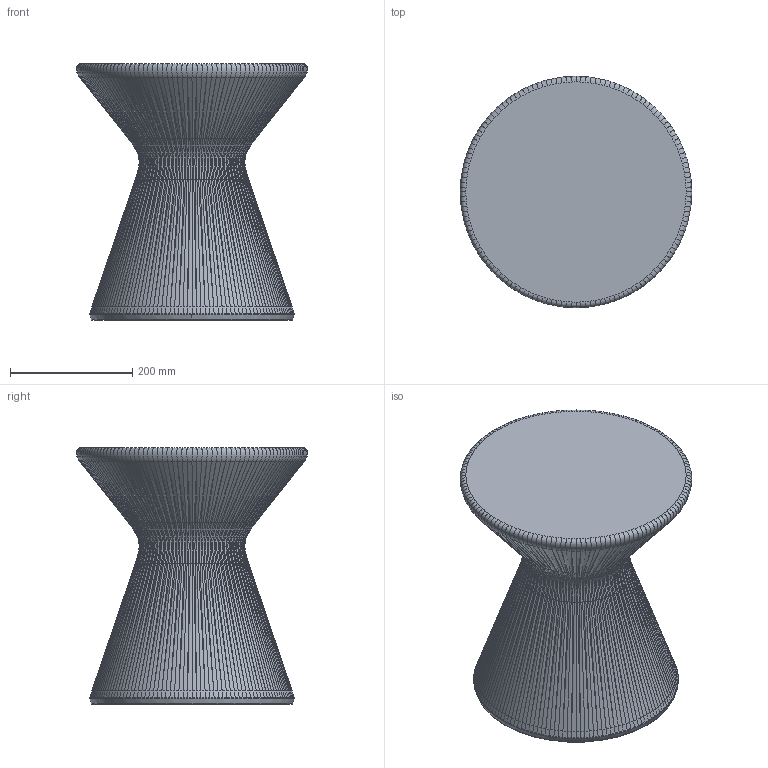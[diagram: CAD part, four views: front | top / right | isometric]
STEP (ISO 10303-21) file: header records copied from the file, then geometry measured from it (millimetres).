
FILE_DESCRIPTION(('CATIA V5 STEP Exchange','CAx-IF Rec.Pracs.--- Model Styling and Organization---1.5--- 2016-08-15','CAx-IF Rec.Pracs.---Supplemental Geometry---1.0---2011-11-01','CAx-IF Rec.Pracs.--- Composite Materials ---3.4---2017-06-13','CAx-IF Rec.Pracs.---Tessellated 3D Geometry---1.0---2015-12-17'),'2;1');
FILE_NAME('C:\Users\samatori\Desktop\PLUST-2022\FADE-Low-Stool\FADE-Low-Stool.stp','2022-04-21T13:15:09+00:00',('none'),('none'),'CATIA Version 5-6 Release 2020 SP3','CATIA V5 STEP AP242 v2','none');
FILE_SCHEMA(('AP242_MANAGED_MODEL_BASED_3D_ENGINEERING_MIM_LF {1 0 10303 442 1 1 4}'));
Products named in the file (1): Part2
Bounding box: 378.35 x 378.35 x 420 mm (x, y, z)
Volume: 22011826 mm3; surface area: 609305.3 mm2
Topology: 1 solids, 1 shells, 1111 faces, 2596 edges, 1346 vertices
Faces by surface type: bspline 664, revolution 288, torus 150, plane 5, cone 4
Entity records: 122177 total; most frequent: CARTESIAN_POINT 104512, ORIENTED_EDGE 4904, EDGE_CURVE 2452, B_SPLINE_CURVE_WITH_KNOTS 2074, VERTEX_POINT 1346, EDGE_LOOP 1114, ADVANCED_FACE 1111, FACE_OUTER_BOUND 1111
